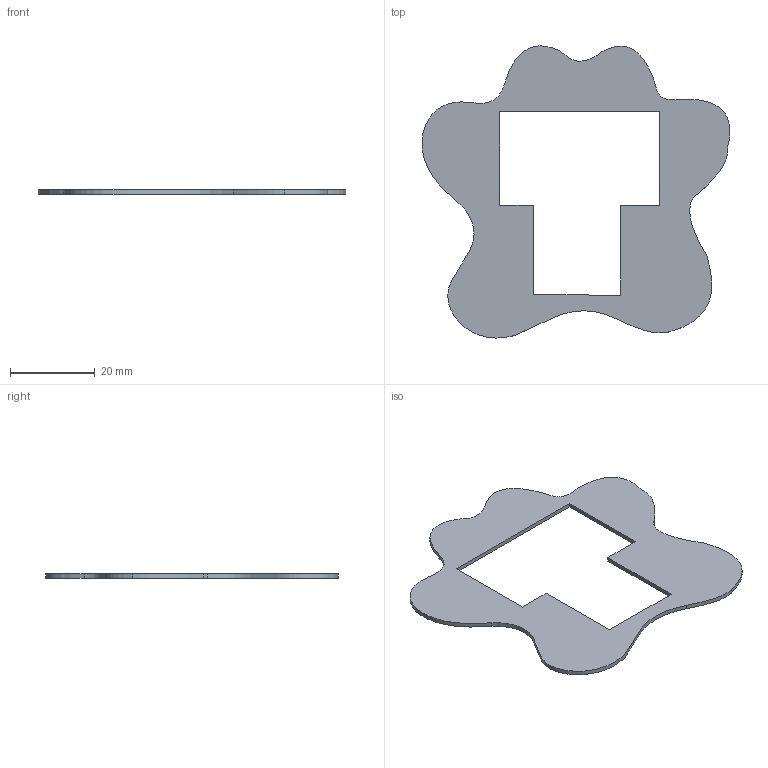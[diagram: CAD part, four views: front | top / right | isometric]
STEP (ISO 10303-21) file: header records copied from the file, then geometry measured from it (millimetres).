
FILE_DESCRIPTION(('HOOPS Exchange Step'),'2;1');
FILE_NAME('C:\Users\Alvin Nguyen\AppData\Local\Packages\Shapr3D.Shapr3D_dvv5p1vgwv6mp\TempState\export\temp_export','2026-07-04T23:54:53+19:00',('Alvin Nguyen'),('Shapr3D Limited'),'HOOPS Exchange 2026.3','Shapr3D','Authorized');
FILE_SCHEMA( ('AP242_MANAGED_MODEL_BASED_3D_ENGINEERING_MIM_LF {1 0 10303 442 1 1 4}') );
Length unit declared in the file: millimetre
Products named in the file (1): bottom (2)
Bounding box: 72.66 x 69 x 1 mm (x, y, z)
Volume: 2399.5 mm3; surface area: 5222.5 mm2
Topology: 1 solids, 1 shells, 27 faces, 75 edges, 50 vertices
Faces by surface type: bspline 13, plane 12, cylinder 2
Entity records: 935 total; most frequent: CARTESIAN_POINT 287, ORIENTED_EDGE 150, DIRECTION 85, EDGE_CURVE 75, VERTEX_POINT 50, VECTOR 45, LINE 45, EDGE_LOOP 29
